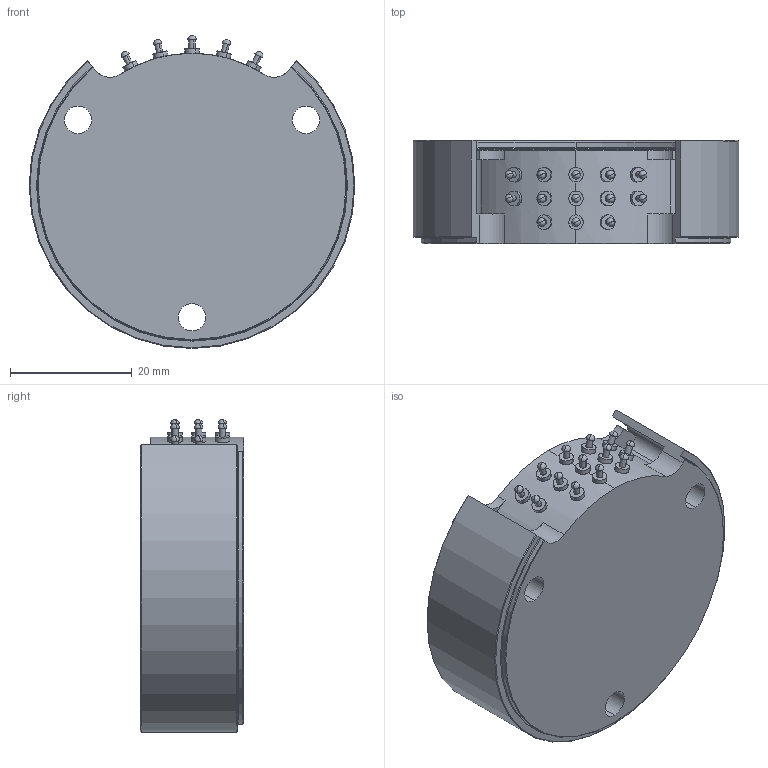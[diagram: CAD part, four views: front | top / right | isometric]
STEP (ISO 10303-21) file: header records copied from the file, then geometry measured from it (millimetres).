
FILE_DESCRIPTION (( 'STEP AP203' ), '1' );
FILE_NAME ('C566036A.STEP', '2017-06-29T19:50:18', ( '' ), ( '' ), 'SwSTEP 2.0', 'SolidWorks 2014', '' );
FILE_SCHEMA (( 'CONFIG_CONTROL_DESIGN' ));
Length unit declared in the file: inch
Products named in the file (1): C566036A
Bounding box: 53.44 x 16.94 x 51.36 mm (x, y, z)
Volume: 30987.2 mm3; surface area: 8124 mm2
Topology: 1 solids, 1 shells, 162 faces, 432 edges, 282 vertices
Faces by surface type: cylinder 85, plane 37, sphere 26, torus 8, cone 6
Entity records: 5310 total; most frequent: CARTESIAN_POINT 1339, DIRECTION 881, ORIENTED_EDGE 760, AXIS2_PLACEMENT_3D 382, EDGE_CURVE 380, VERTEX_POINT 256, CIRCLE 219, EDGE_LOOP 204
